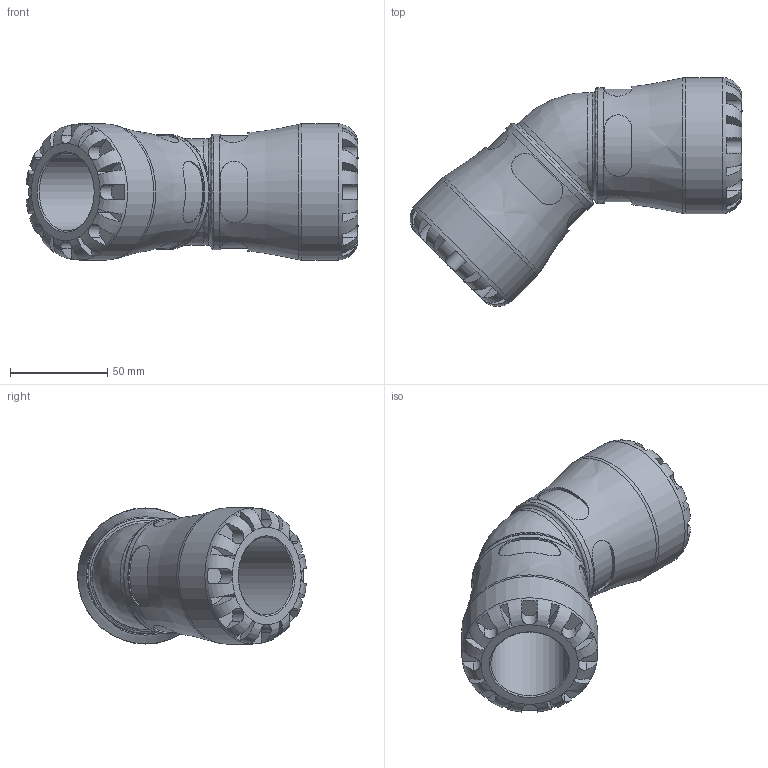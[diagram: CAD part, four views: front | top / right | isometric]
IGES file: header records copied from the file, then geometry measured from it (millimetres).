
Global section: file name: 100600040_190600040.ipt; native system: Autodesk Inventor 2015; preprocessor: unknown; author: KIM; date: 20170122.114539; units: millimetre
Bounding box: 170.65 x 117.65 x 70 mm (x, y, z)
Volume: 339887.9 mm3; surface area: 65532.8 mm2
Topology: 1 solids, 1 shells, 196 faces, 516 edges, 328 vertices
Faces by surface type: plane 116, revolution 49, cylinder 30, bspline 1
Full cylindrical faces by diameter (mm): 59.5 x2, 70 x2
